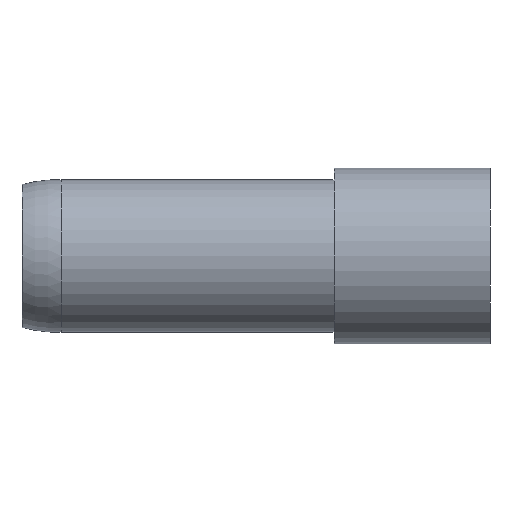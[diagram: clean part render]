
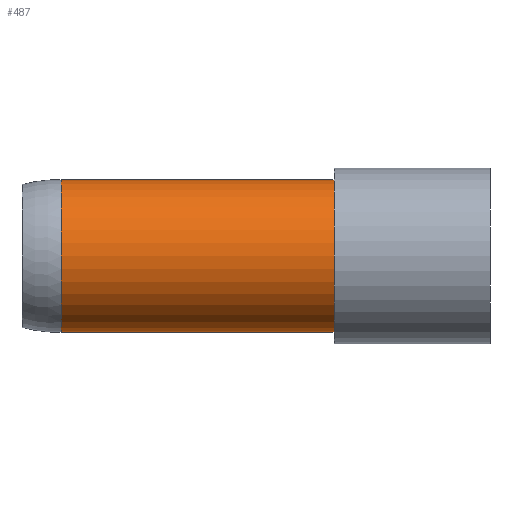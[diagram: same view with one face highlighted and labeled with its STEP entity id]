
A CAD part, front view. The second image highlights one B-rep face of the part: STEP entity #487.
In plain terms, the highlighted cylindrical face has radius 12.446 mm (diameter 24.892 mm), a partial arc.
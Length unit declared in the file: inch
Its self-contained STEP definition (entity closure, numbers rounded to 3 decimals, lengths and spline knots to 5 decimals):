
#31 = DIRECTION ( 'NONE',  ( -1., 0., 0. ) ) ;
#96 = CIRCLE ( 'NONE', #2508, 0.49 ) ;
#162 = LINE ( 'NONE', #3713, #3694 ) ;
#220 = EDGE_CURVE ( 'NONE', #1211, #539, #1052, .T. ) ;
#451 = EDGE_CURVE ( 'NONE', #1211, #2397, #96, .T. ) ;
#487 = ADVANCED_FACE ( 'NONE', ( #1520 ), #3695, .T. ) ;
#513 = CARTESIAN_POINT ( 'NONE',  ( -0.25, 0., 0.49 ) ) ;
#539 = VERTEX_POINT ( 'NONE', #3094 ) ;
#753 = CARTESIAN_POINT ( 'NONE',  ( -0.25, 0., -0.49 ) ) ;
#1003 = VERTEX_POINT ( 'NONE', #4127 ) ;
#1041 = DIRECTION ( 'NONE',  ( -1., 0., 0. ) ) ;
#1052 = LINE ( 'NONE', #3457, #4081 ) ;
#1211 = VERTEX_POINT ( 'NONE', #753 ) ;
#1520 = FACE_OUTER_BOUND ( 'NONE', #2148, .T. ) ;
#1642 = CARTESIAN_POINT ( 'NONE',  ( -2., 0., 0. ) ) ;
#1997 = DIRECTION ( 'NONE',  ( 0., 0., 1. ) ) ;
#2045 = ORIENTED_EDGE ( 'NONE', *, *, #3965, .F. ) ;
#2094 = CIRCLE ( 'NONE', #2812, 0.49 ) ;
#2148 = EDGE_LOOP ( 'NONE', ( #2930, #2599, #3717, #2045 ) ) ;
#2397 = VERTEX_POINT ( 'NONE', #513 ) ;
#2508 = AXIS2_PLACEMENT_3D ( 'NONE', #2872, #31, #3573 ) ;
#2529 = EDGE_CURVE ( 'NONE', #2397, #1003, #162, .T. ) ;
#2599 = ORIENTED_EDGE ( 'NONE', *, *, #451, .T. ) ;
#2812 = AXIS2_PLACEMENT_3D ( 'NONE', #1642, #4130, #1997 ) ;
#2829 = DIRECTION ( 'NONE',  ( -1., 0., 0. ) ) ;
#2872 = CARTESIAN_POINT ( 'NONE',  ( -0.25, 0., 0. ) ) ;
#2930 = ORIENTED_EDGE ( 'NONE', *, *, #220, .F. ) ;
#3094 = CARTESIAN_POINT ( 'NONE',  ( -2., 0., -0.49 ) ) ;
#3427 = CARTESIAN_POINT ( 'NONE',  ( -2.25, 0., 0. ) ) ;
#3457 = CARTESIAN_POINT ( 'NONE',  ( -2.25, 0., -0.49 ) ) ;
#3479 = DIRECTION ( 'NONE',  ( -1., 0., 0. ) ) ;
#3573 = DIRECTION ( 'NONE',  ( 0., 0., 1. ) ) ;
#3694 = VECTOR ( 'NONE', #2829, 39.37008 ) ;
#3695 = CYLINDRICAL_SURFACE ( 'NONE', #3858, 0.49 ) ;
#3713 = CARTESIAN_POINT ( 'NONE',  ( -2.25, 0., 0.49 ) ) ;
#3717 = ORIENTED_EDGE ( 'NONE', *, *, #2529, .T. ) ;
#3858 = AXIS2_PLACEMENT_3D ( 'NONE', #3427, #3479, #4520 ) ;
#3965 = EDGE_CURVE ( 'NONE', #539, #1003, #2094, .T. ) ;
#4081 = VECTOR ( 'NONE', #1041, 39.37008 ) ;
#4127 = CARTESIAN_POINT ( 'NONE',  ( -2., 0., 0.49 ) ) ;
#4130 = DIRECTION ( 'NONE',  ( -1., 0., 0. ) ) ;
#4520 = DIRECTION ( 'NONE',  ( 0., 0., 1. ) ) ;
